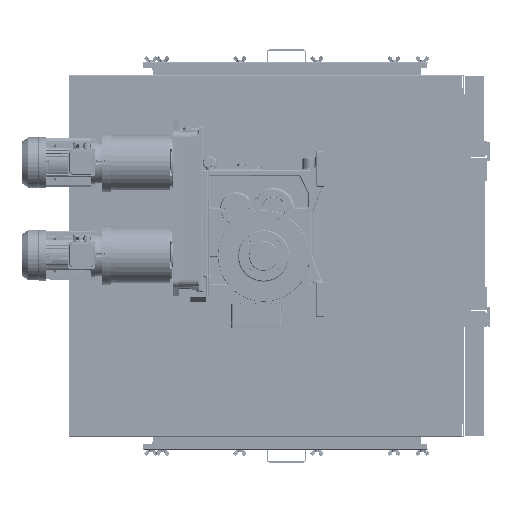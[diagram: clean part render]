
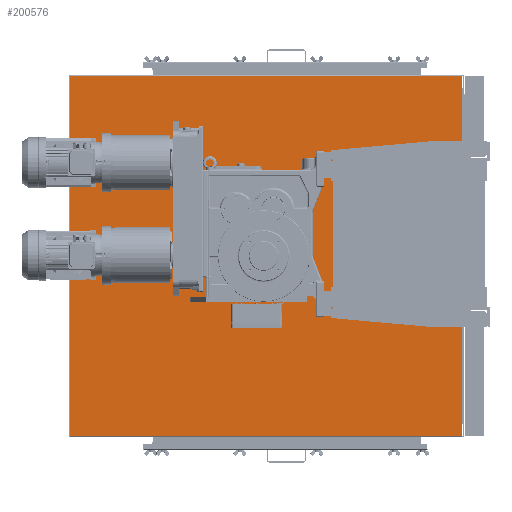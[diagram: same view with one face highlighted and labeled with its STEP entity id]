
A CAD part, left-side view. The second image highlights one B-rep face of the part: STEP entity #200576.
In plain terms, the highlighted planar face has unit normal (-1, 0, 0).
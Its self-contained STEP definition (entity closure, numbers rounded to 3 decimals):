
#11623=PLANE('',#216101);
#14507=FACE_BOUND('',#71853,.T.);
#14508=FACE_BOUND('',#71854,.T.);
#14509=FACE_BOUND('',#71855,.T.);
#14510=FACE_BOUND('',#71856,.T.);
#14511=FACE_BOUND('',#71857,.T.);
#14512=FACE_BOUND('',#71858,.T.);
#14513=FACE_BOUND('',#71859,.T.);
#14514=FACE_BOUND('',#71860,.T.);
#14515=FACE_BOUND('',#71861,.T.);
#30475=LINE('',#340918,#48111);
#30490=LINE('',#340957,#48126);
#30491=LINE('',#340961,#48127);
#30492=LINE('',#340962,#48128);
#48111=VECTOR('',#262387,1398.);
#48126=VECTOR('',#262420,1524.);
#48127=VECTOR('',#262425,1524.);
#48128=VECTOR('',#262426,1398.);
#59280=FACE_OUTER_BOUND('',#71852,.T.);
#71852=EDGE_LOOP('',(#172748,#172749,#172750,#172751));
#71853=EDGE_LOOP('',(#172752));
#71854=EDGE_LOOP('',(#172753));
#71855=EDGE_LOOP('',(#172754));
#71856=EDGE_LOOP('',(#172755));
#71857=EDGE_LOOP('',(#172756));
#71858=EDGE_LOOP('',(#172757));
#71859=EDGE_LOOP('',(#172758));
#71860=EDGE_LOOP('',(#172759));
#71861=EDGE_LOOP('',(#172760));
#78349=CIRCLE('',#216102,7.25);
#78350=CIRCLE('',#216103,7.25);
#78351=CIRCLE('',#216104,7.25);
#78352=CIRCLE('',#216105,7.25);
#78353=CIRCLE('',#216106,7.25);
#78354=CIRCLE('',#216107,7.25);
#78355=CIRCLE('',#216108,7.25);
#78356=CIRCLE('',#216109,7.25);
#78357=CIRCLE('',#216110,60.);
#95149=VERTEX_POINT('',#340910);
#95152=VERTEX_POINT('',#340916);
#95162=VERTEX_POINT('',#340940);
#95168=VERTEX_POINT('',#340960);
#95169=VERTEX_POINT('',#340963);
#95170=VERTEX_POINT('',#340965);
#95171=VERTEX_POINT('',#340967);
#95172=VERTEX_POINT('',#340969);
#95173=VERTEX_POINT('',#340971);
#95174=VERTEX_POINT('',#340973);
#95175=VERTEX_POINT('',#340975);
#95176=VERTEX_POINT('',#340977);
#95177=VERTEX_POINT('',#340979);
#121292=EDGE_CURVE('',#95149,#95152,#30475,.T.);
#121311=EDGE_CURVE('',#95152,#95162,#30490,.T.);
#121313=EDGE_CURVE('',#95168,#95149,#30491,.T.);
#121314=EDGE_CURVE('',#95162,#95168,#30492,.T.);
#121315=EDGE_CURVE('',#95169,#95169,#78349,.T.);
#121316=EDGE_CURVE('',#95170,#95170,#78350,.T.);
#121317=EDGE_CURVE('',#95171,#95171,#78351,.T.);
#121318=EDGE_CURVE('',#95172,#95172,#78352,.T.);
#121319=EDGE_CURVE('',#95173,#95173,#78353,.T.);
#121320=EDGE_CURVE('',#95174,#95174,#78354,.T.);
#121321=EDGE_CURVE('',#95175,#95175,#78355,.T.);
#121322=EDGE_CURVE('',#95176,#95176,#78356,.T.);
#121323=EDGE_CURVE('',#95177,#95177,#78357,.T.);
#172748=ORIENTED_EDGE('',*,*,#121313,.T.);
#172749=ORIENTED_EDGE('',*,*,#121292,.T.);
#172750=ORIENTED_EDGE('',*,*,#121311,.T.);
#172751=ORIENTED_EDGE('',*,*,#121314,.T.);
#172752=ORIENTED_EDGE('',*,*,#121315,.T.);
#172753=ORIENTED_EDGE('',*,*,#121316,.T.);
#172754=ORIENTED_EDGE('',*,*,#121317,.T.);
#172755=ORIENTED_EDGE('',*,*,#121318,.T.);
#172756=ORIENTED_EDGE('',*,*,#121319,.T.);
#172757=ORIENTED_EDGE('',*,*,#121320,.T.);
#172758=ORIENTED_EDGE('',*,*,#121321,.T.);
#172759=ORIENTED_EDGE('',*,*,#121322,.T.);
#172760=ORIENTED_EDGE('',*,*,#121323,.T.);
#200576=ADVANCED_FACE('',(#59280,#14507,#14508,#14509,#14510,#14511,#14512,
#14513,#14514,#14515),#11623,.F.);
#216101=AXIS2_PLACEMENT_3D('',#340959,#262423,#262424);
#216102=AXIS2_PLACEMENT_3D('',#340964,#262427,#262428);
#216103=AXIS2_PLACEMENT_3D('',#340966,#262429,#262430);
#216104=AXIS2_PLACEMENT_3D('',#340968,#262431,#262432);
#216105=AXIS2_PLACEMENT_3D('',#340970,#262433,#262434);
#216106=AXIS2_PLACEMENT_3D('',#340972,#262435,#262436);
#216107=AXIS2_PLACEMENT_3D('',#340974,#262437,#262438);
#216108=AXIS2_PLACEMENT_3D('',#340976,#262439,#262440);
#216109=AXIS2_PLACEMENT_3D('',#340978,#262441,#262442);
#216110=AXIS2_PLACEMENT_3D('',#340980,#262443,#262444);
#262387=DIRECTION('',(0.,0.,1.));
#262420=DIRECTION('',(0.,1.,0.));
#262423=DIRECTION('center_axis',(1.,0.,0.));
#262424=DIRECTION('ref_axis',(0.,-1.,0.));
#262425=DIRECTION('',(0.,-1.,0.));
#262426=DIRECTION('',(0.,0.,-1.));
#262427=DIRECTION('center_axis',(1.,0.,0.));
#262428=DIRECTION('ref_axis',(0.,-1.,0.));
#262429=DIRECTION('center_axis',(1.,0.,0.));
#262430=DIRECTION('ref_axis',(0.,-1.,0.));
#262431=DIRECTION('center_axis',(1.,0.,0.));
#262432=DIRECTION('ref_axis',(0.,-1.,0.));
#262433=DIRECTION('center_axis',(1.,0.,0.));
#262434=DIRECTION('ref_axis',(0.,-1.,0.));
#262435=DIRECTION('center_axis',(1.,0.,0.));
#262436=DIRECTION('ref_axis',(0.,-1.,0.));
#262437=DIRECTION('center_axis',(1.,0.,0.));
#262438=DIRECTION('ref_axis',(0.,-1.,0.));
#262439=DIRECTION('center_axis',(1.,0.,0.));
#262440=DIRECTION('ref_axis',(0.,-1.,0.));
#262441=DIRECTION('center_axis',(1.,0.,0.));
#262442=DIRECTION('ref_axis',(0.,-1.,0.));
#262443=DIRECTION('center_axis',(1.,0.,0.));
#262444=DIRECTION('ref_axis',(0.,-1.,0.));
#340910=CARTESIAN_POINT('',(261.319,-832.732,-845.606));
#340916=CARTESIAN_POINT('',(261.319,-832.732,552.394));
#340918=CARTESIAN_POINT('',(261.319,-832.732,-847.606));
#340940=CARTESIAN_POINT('',(261.319,691.268,552.394));
#340957=CARTESIAN_POINT('',(261.319,-451.732,552.394));
#340959=CARTESIAN_POINT('Origin',(261.319,-70.732,-146.606));
#340960=CARTESIAN_POINT('',(261.319,691.268,-845.606));
#340961=CARTESIAN_POINT('',(261.319,310.268,-845.606));
#340962=CARTESIAN_POINT('',(261.319,691.268,554.394));
#340963=CARTESIAN_POINT('',(261.319,-66.982,-261.106));
#340964=CARTESIAN_POINT('Origin',(261.319,-59.732,-261.106));
#340965=CARTESIAN_POINT('',(261.319,-181.482,-146.606));
#340966=CARTESIAN_POINT('Origin',(261.319,-174.232,-146.606));
#340967=CARTESIAN_POINT('',(261.319,-66.982,-32.106));
#340968=CARTESIAN_POINT('Origin',(261.319,-59.732,-32.106));
#340969=CARTESIAN_POINT('',(261.319,47.518,-146.606));
#340970=CARTESIAN_POINT('Origin',(261.319,54.768,-146.606));
#340971=CARTESIAN_POINT('',(261.319,13.982,-65.643));
#340972=CARTESIAN_POINT('Origin',(261.319,21.232,-65.643));
#340973=CARTESIAN_POINT('',(261.319,-147.946,-65.643));
#340974=CARTESIAN_POINT('Origin',(261.319,-140.696,-65.643));
#340975=CARTESIAN_POINT('',(261.319,-147.946,-227.57));
#340976=CARTESIAN_POINT('Origin',(261.319,-140.696,-227.57));
#340977=CARTESIAN_POINT('',(261.319,13.982,-227.57));
#340978=CARTESIAN_POINT('Origin',(261.319,21.232,-227.57));
#340979=CARTESIAN_POINT('',(261.319,-119.732,-146.606));
#340980=CARTESIAN_POINT('Origin',(261.319,-59.732,-146.606));
